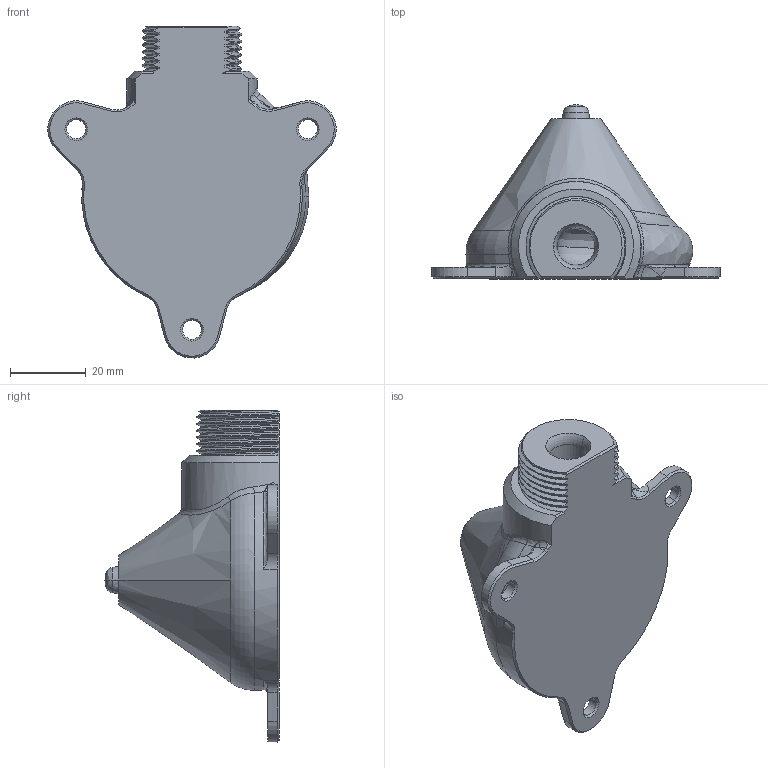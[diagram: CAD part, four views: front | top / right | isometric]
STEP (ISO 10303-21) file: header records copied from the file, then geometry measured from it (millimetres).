
FILE_DESCRIPTION((''),'2;1');
FILE_NAME('IRRIGATORE','2024-07-01T18:43:38',('andre'),(''),'CREO PARAMETRIC BY PTC INC, 2022073','CREO PARAMETRIC BY PTC INC, 2022073','');
FILE_SCHEMA(('CONFIG_CONTROL_DESIGN'));
Length unit declared in the file: millimetre
Products named in the file (1): IRRIGATORE
Bounding box: 76.22 x 46.06 x 87.85 mm (x, y, z)
Volume: 47506.7 mm3; surface area: 22408.6 mm2
Topology: 1 solids, 2 shells, 167 faces, 444 edges, 275 vertices
Faces by surface type: bspline 65, cylinder 36, plane 27, cone 24, torus 13, sphere 2
Entity records: 12533 total; most frequent: CARTESIAN_POINT 8846, ORIENTED_EDGE 870, DIRECTION 596, EDGE_CURVE 440, VERTEX_POINT 275, AXIS2_PLACEMENT_3D 236, B_SPLINE_CURVE_WITH_KNOTS 183, EDGE_LOOP 175
